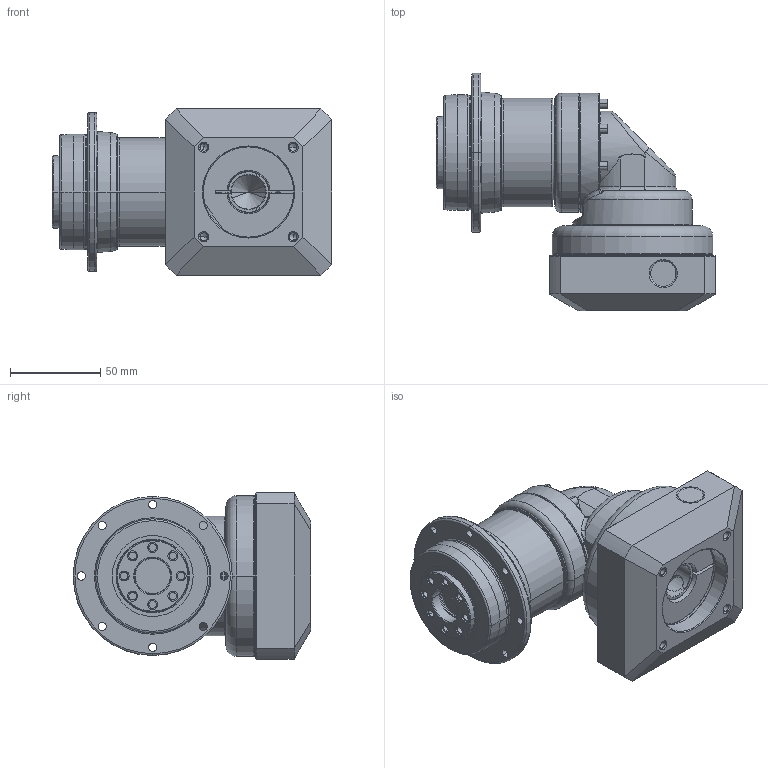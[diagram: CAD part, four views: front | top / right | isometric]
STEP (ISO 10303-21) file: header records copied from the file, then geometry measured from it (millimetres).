
FILE_DESCRIPTION((''),'2;1');
FILE_NAME('PDR064_2ST_19-P0411400101_ASM','2016-06-06T',('d01943'),(''),'PRO/ENGINEER BY PARAMETRIC TECHNOLOGY CORPORATION, 2008410','PRO/ENGINEER BY PARAMETRIC TECHNOLOGY CORPORATION, 2008410','');
FILE_SCHEMA(('CONFIG_CONTROL_DESIGN'));
Length unit declared in the file: millimetre
Products named in the file (10): P1355200001; P0367200001; P0275200001; P1349200001; P1017200001; P1350200301; P0411400101; P0503400008; P0713200301; PDR064_2ST_19-P0411400101_ASM
Assembly tree (9 placements, depth 2):
  PDR064_2ST_19-P0411400101_ASM
    P1355200001
    P0367200001
    P0275200001
    P1349200001
    P1017200001
    P1350200301
    P0411400101
    P0503400008
    P0713200301
Bounding box: 154.5 x 131.5 x 92 mm (x, y, z)
Volume: 617638.6 mm3; surface area: 137745.3 mm2
Topology: 9 solids, 9 shells, 550 faces, 1236 edges, 726 vertices
Faces by surface type: cylinder 191, cone 156, plane 91, torus 82, bspline 30
Entity records: 18178 total; most frequent: CARTESIAN_POINT 5672, DIRECTION 2794, ORIENTED_EDGE 2404, EDGE_CURVE 1202, AXIS2_PLACEMENT_3D 1193, VERTEX_POINT 726, CIRCLE 654, EDGE_LOOP 650
